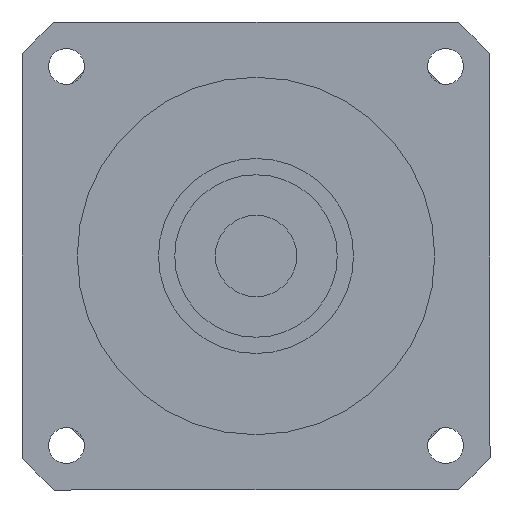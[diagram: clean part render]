
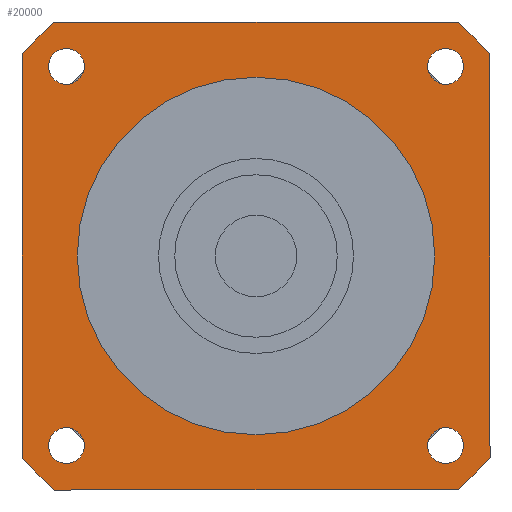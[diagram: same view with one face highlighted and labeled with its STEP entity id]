
A CAD part, left-side view. The second image highlights one B-rep face of the part: STEP entity #20000.
In plain terms, the highlighted planar face has unit normal (-1, 0, 0) as drawn and (0, 0, -1) by its records, which use the part's own axes.
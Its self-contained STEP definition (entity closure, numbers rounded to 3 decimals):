
#15970=CARTESIAN_POINT('',(72.,-61.976,-122.));
#15980=VERTEX_POINT('',#15970);
#16150=CARTESIAN_POINT('',(72.,61.976,-122.));
#16160=VERTEX_POINT('',#16150);
#16190=CARTESIAN_POINT('',(72.,-71.,-122.));
#16200=DIRECTION('',(0.,1.,0.));
#16210=VECTOR('',#16200,1000.);
#16220=LINE('',#16190,#16210);
#16230=EDGE_CURVE('',#15980,#16160,#16220,.T.);
#16370=CARTESIAN_POINT('',(61.976,-72.,-122.));
#16380=VERTEX_POINT('',#16370);
#16510=CARTESIAN_POINT('',(0.,0.,
-122.));
#16520=DIRECTION('',(0.,0.,1.));
#16530=DIRECTION('',(1.,0.,0.));
#16540=AXIS2_PLACEMENT_3D('',#16510,#16520,#16530);
#16550=CIRCLE('',#16540,95.);
#16560=EDGE_CURVE('',#16380,#15980,#16550,.T.);
#18370=CARTESIAN_POINT('',(-52.836,-58.336,-122.));
#18380=VERTEX_POINT('',#18370);
#18460=CARTESIAN_POINT('',(-63.836,-58.336,-122.));
#18470=VERTEX_POINT('',#18460);
#18500=CARTESIAN_POINT('',(-58.336,-58.336,-122.));
#18510=DIRECTION('',(0.,0.,-1.));
#18520=DIRECTION('',(0.,-1.,0.));
#18530=AXIS2_PLACEMENT_3D('',#18500,#18510,#18520);
#18540=CIRCLE('',#18530,5.5);
#18550=CARTESIAN_POINT('',(-58.336,-63.836,-122.));
#18560=VERTEX_POINT('',#18550);
#18570=EDGE_CURVE('',#18560,#18470,#18540,.T.);
#18590=EDGE_CURVE('',#18380,#18560,#18540,.T.);
#18640=CARTESIAN_POINT('',(-71.,71.,-122.));
#18650=DIRECTION('',(0.,0.,1.));
#18660=DIRECTION('',(-1.,0.,0.));
#18670=AXIS2_PLACEMENT_3D('',#18640,#18650,#18660);
#18680=PLANE('',#18670);
#18690=CARTESIAN_POINT('',(58.336,58.336,-122.));
#18700=DIRECTION('',(0.,0.,-1.));
#18710=DIRECTION('',(0.,1.,0.));
#18720=AXIS2_PLACEMENT_3D('',#18690,#18700,#18710);
#18730=CIRCLE('',#18720,5.5);
#18740=CARTESIAN_POINT('',(58.336,63.836,-122.));
#18750=VERTEX_POINT('',#18740);
#18760=CARTESIAN_POINT('',(63.836,58.336,-122.));
#18770=VERTEX_POINT('',#18760);
#18780=EDGE_CURVE('',#18750,#18770,#18730,.T.);
#18790=ORIENTED_EDGE('',*,*,#18780,.F.);
#18800=CARTESIAN_POINT('',(52.836,58.336,-122.));
#18810=VERTEX_POINT('',#18800);
#18820=EDGE_CURVE('',#18770,#18810,#18730,.T.);
#18830=ORIENTED_EDGE('',*,*,#18820,.F.);
#18840=EDGE_CURVE('',#18810,#18750,#18730,.T.);
#18850=ORIENTED_EDGE('',*,*,#18840,.F.);
#18860=EDGE_LOOP('',(#18850,#18830,#18790));
#18870=FACE_BOUND('',#18860,.T.);
#18880=CARTESIAN_POINT('',(-58.336,58.336,-122.));
#18890=DIRECTION('',(0.,0.,-1.));
#18900=DIRECTION('',(-1.,0.,0.));
#18910=AXIS2_PLACEMENT_3D('',#18880,#18890,#18900);
#18920=CIRCLE('',#18910,5.5);
#18930=CARTESIAN_POINT('',(-63.836,58.336,-122.));
#18940=VERTEX_POINT('',#18930);
#18950=CARTESIAN_POINT('',(-58.336,63.836,-122.));
#18960=VERTEX_POINT('',#18950);
#18970=EDGE_CURVE('',#18940,#18960,#18920,.T.);
#18980=ORIENTED_EDGE('',*,*,#18970,.F.);
#18990=CARTESIAN_POINT('',(-58.336,52.836,-122.));
#19000=VERTEX_POINT('',#18990);
#19010=EDGE_CURVE('',#18960,#19000,#18920,.T.);
#19020=ORIENTED_EDGE('',*,*,#19010,.F.);
#19030=EDGE_CURVE('',#19000,#18940,#18920,.T.);
#19040=ORIENTED_EDGE('',*,*,#19030,.F.);
#19050=EDGE_LOOP('',(#19040,#19020,#18980));
#19060=FACE_BOUND('',#19050,.T.);
#19070=ORIENTED_EDGE('',*,*,#18570,.F.);
#19080=EDGE_CURVE('',#18470,#18380,#18540,.T.);
#19090=ORIENTED_EDGE('',*,*,#19080,.F.);
#19100=ORIENTED_EDGE('',*,*,#18590,.F.);
#19110=EDGE_LOOP('',(#19100,#19090,#19070));
#19120=FACE_BOUND('',#19110,.T.);
#19130=CARTESIAN_POINT('',(0.,0.,
-122.));
#19140=DIRECTION('',(0.,0.,1.));
#19150=DIRECTION('',(1.,0.,0.));
#19160=AXIS2_PLACEMENT_3D('',#19130,#19140,#19150);
#19170=CIRCLE('',#19160,55.);
#19180=CARTESIAN_POINT('',(55.,0.,-122.));
#19190=VERTEX_POINT('',#19180);
#19200=CARTESIAN_POINT('',(-55.,0.,-122.));
#19210=VERTEX_POINT('',#19200);
#19220=EDGE_CURVE('',#19190,#19210,#19170,.T.);
#19230=ORIENTED_EDGE('',*,*,#19220,.T.);
#19240=EDGE_CURVE('',#19210,#19190,#19170,.T.);
#19250=ORIENTED_EDGE('',*,*,#19240,.T.);
#19260=EDGE_LOOP('',(#19250,#19230));
#19270=FACE_BOUND('',#19260,.T.);
#19280=CARTESIAN_POINT('',(58.336,-58.336,-122.));
#19290=DIRECTION('',(0.,0.,-1.));
#19300=DIRECTION('',(1.,0.,0.));
#19310=AXIS2_PLACEMENT_3D('',#19280,#19290,#19300);
#19320=CIRCLE('',#19310,5.5);
#19330=CARTESIAN_POINT('',(63.836,-58.336,-122.));
#19340=VERTEX_POINT('',#19330);
#19350=CARTESIAN_POINT('',(58.336,-63.836,-122.));
#19360=VERTEX_POINT('',#19350);
#19370=EDGE_CURVE('',#19340,#19360,#19320,.T.);
#19380=ORIENTED_EDGE('',*,*,#19370,.F.);
#19390=CARTESIAN_POINT('',(58.336,-52.836,-122.));
#19400=VERTEX_POINT('',#19390);
#19410=EDGE_CURVE('',#19360,#19400,#19320,.T.);
#19420=ORIENTED_EDGE('',*,*,#19410,.F.);
#19430=EDGE_CURVE('',#19400,#19340,#19320,.T.);
#19440=ORIENTED_EDGE('',*,*,#19430,.F.);
#19450=EDGE_LOOP('',(#19440,#19420,#19380));
#19460=FACE_BOUND('',#19450,.T.);
#19470=CARTESIAN_POINT('',(0.,0.,
-122.));
#19480=DIRECTION('',(0.,0.,1.));
#19490=DIRECTION('',(1.,0.,0.));
#19500=AXIS2_PLACEMENT_3D('',#19470,#19480,#19490);
#19510=CIRCLE('',#19500,95.);
#19520=CARTESIAN_POINT('',(-72.,-61.976,-122.));
#19530=VERTEX_POINT('',#19520);
#19540=CARTESIAN_POINT('',(-61.976,-72.,-122.));
#19550=VERTEX_POINT('',#19540);
#19560=EDGE_CURVE('',#19530,#19550,#19510,.T.);
#19570=ORIENTED_EDGE('',*,*,#19560,.F.);
#19580=CARTESIAN_POINT('',(-71.,-72.,-122.));
#19590=DIRECTION('',(1.,0.,0.));
#19600=VECTOR('',#19590,1000.);
#19610=LINE('',#19580,#19600);
#19620=EDGE_CURVE('',#19550,#16380,#19610,.T.);
#19630=ORIENTED_EDGE('',*,*,#19620,.F.);
#19640=ORIENTED_EDGE('',*,*,#16560,.F.);
#19650=ORIENTED_EDGE('',*,*,#16230,.F.);
#19660=CARTESIAN_POINT('',(0.,0.,
-122.));
#19670=DIRECTION('',(0.,0.,1.));
#19680=DIRECTION('',(1.,0.,0.));
#19690=AXIS2_PLACEMENT_3D('',#19660,#19670,#19680);
#19700=CIRCLE('',#19690,95.);
#19710=CARTESIAN_POINT('',(61.976,72.,-122.));
#19720=VERTEX_POINT('',#19710);
#19730=EDGE_CURVE('',#16160,#19720,#19700,.T.);
#19740=ORIENTED_EDGE('',*,*,#19730,.F.);
#19750=CARTESIAN_POINT('',(71.,72.,-122.));
#19760=DIRECTION('',(-1.,0.,0.));
#19770=VECTOR('',#19760,1000.);
#19780=LINE('',#19750,#19770);
#19790=CARTESIAN_POINT('',(-61.976,72.,-122.));
#19800=VERTEX_POINT('',#19790);
#19810=EDGE_CURVE('',#19720,#19800,#19780,.T.);
#19820=ORIENTED_EDGE('',*,*,#19810,.F.);
#19830=CARTESIAN_POINT('',(0.,0.,
-122.));
#19840=DIRECTION('',(0.,0.,1.));
#19850=DIRECTION('',(1.,0.,0.));
#19860=AXIS2_PLACEMENT_3D('',#19830,#19840,#19850);
#19870=CIRCLE('',#19860,95.);
#19880=CARTESIAN_POINT('',(-72.,61.976,-122.));
#19890=VERTEX_POINT('',#19880);
#19900=EDGE_CURVE('',#19800,#19890,#19870,.T.);
#19910=ORIENTED_EDGE('',*,*,#19900,.F.);
#19920=CARTESIAN_POINT('',(-72.,71.,-122.));
#19930=DIRECTION('',(0.,-1.,0.));
#19940=VECTOR('',#19930,1000.);
#19950=LINE('',#19920,#19940);
#19960=EDGE_CURVE('',#19890,#19530,#19950,.T.);
#19970=ORIENTED_EDGE('',*,*,#19960,.F.);
#19980=EDGE_LOOP('',(#19970,#19910,#19820,#19740,#19650,#19640,#19630,
#19570));
#19990=FACE_OUTER_BOUND('',#19980,.T.);
#20000=ADVANCED_FACE('',(#18870,#19060,#19120,#19270,#19460,#19990),
#18680,.F.);
